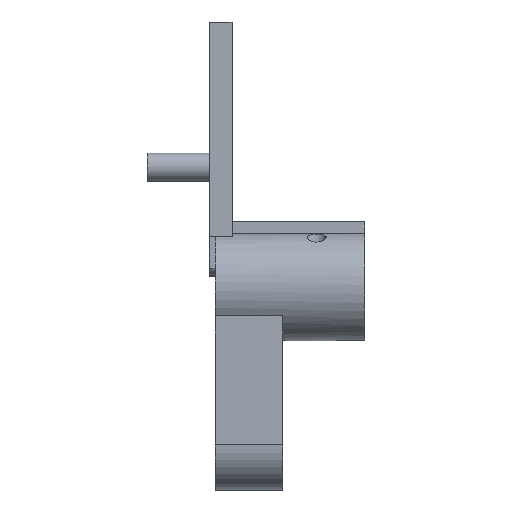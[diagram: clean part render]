
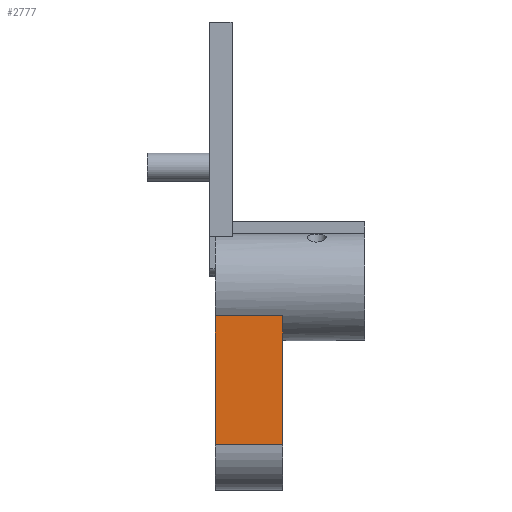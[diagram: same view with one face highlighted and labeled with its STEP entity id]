
A CAD part, top view. The second image highlights one B-rep face of the part: STEP entity #2777.
In plain terms, the highlighted planar face has unit normal (0, 0, 1).
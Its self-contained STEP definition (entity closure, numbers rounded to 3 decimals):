
#739 = PLANE('',#740);
#740 = AXIS2_PLACEMENT_3D('',#741,#742,#743);
#741 = CARTESIAN_POINT('',(35.5,-134.708,-225.));
#742 = DIRECTION('',(1.,0.,0.));
#743 = DIRECTION('',(-0.,0.,1.));
#764 = CYLINDRICAL_SURFACE('',#765,9.5);
#765 = AXIS2_PLACEMENT_3D('',#766,#767,#768);
#766 = CARTESIAN_POINT('',(35.5,-134.708,-225.));
#767 = DIRECTION('',(-1.,-0.,-0.));
#768 = DIRECTION('',(0.,-1.,0.));
#2115 = VERTEX_POINT('',#2116);
#2116 = CARTESIAN_POINT('',(35.5,-139.832,-217.));
#2212 = VERTEX_POINT('',#2213);
#2213 = CARTESIAN_POINT('',(47.5,-139.832,-217.));
#2228 = PLANE('',#2229);
#2229 = AXIS2_PLACEMENT_3D('',#2230,#2231,#2232);
#2230 = CARTESIAN_POINT('',(47.5,-162.708,-233.));
#2231 = DIRECTION('',(1.,0.,0.));
#2232 = DIRECTION('',(0.,0.,1.));
#2244 = EDGE_CURVE('',#2212,#2115,#2245,.T.);
#2245 = SURFACE_CURVE('',#2246,(#2250,#2256),.PCURVE_S1.);
#2246 = LINE('',#2247,#2248);
#2247 = CARTESIAN_POINT('',(35.5,-139.832,-217.));
#2248 = VECTOR('',#2249,1.);
#2249 = DIRECTION('',(-1.,-0.,-0.));
#2250 = PCURVE('',#764,#2251);
#2251 = DEFINITIONAL_REPRESENTATION('',(#2252),#2255);
#2252 = B_SPLINE_CURVE_WITH_KNOTS('',1,(#2253,#2254),.UNSPECIFIED.,.F.,
  .F.,(2,2),(-13.2,0.),.PIECEWISE_BEZIER_KNOTS.);
#2253 = CARTESIAN_POINT('',(-5.282,-13.2));
#2254 = CARTESIAN_POINT('',(-5.282,0.));
#2255 = ( GEOMETRIC_REPRESENTATION_CONTEXT(2) 
PARAMETRIC_REPRESENTATION_CONTEXT() REPRESENTATION_CONTEXT('2D SPACE',''
  ) );
#2256 = PCURVE('',#2257,#2262);
#2257 = PLANE('',#2258);
#2258 = AXIS2_PLACEMENT_3D('',#2259,#2260,#2261);
#2259 = CARTESIAN_POINT('',(35.5,-162.708,-217.));
#2260 = DIRECTION('',(0.,0.,1.));
#2261 = DIRECTION('',(1.,0.,0.));
#2262 = DEFINITIONAL_REPRESENTATION('',(#2263),#2266);
#2263 = B_SPLINE_CURVE_WITH_KNOTS('',1,(#2264,#2265),.UNSPECIFIED.,.F.,
  .F.,(2,2),(-13.2,0.),.PIECEWISE_BEZIER_KNOTS.);
#2264 = CARTESIAN_POINT('',(13.2,22.877));
#2265 = CARTESIAN_POINT('',(0.,22.877));
#2266 = ( GEOMETRIC_REPRESENTATION_CONTEXT(2) 
PARAMETRIC_REPRESENTATION_CONTEXT() REPRESENTATION_CONTEXT('2D SPACE',''
  ) );
#2464 = EDGE_CURVE('',#2465,#2115,#2467,.T.);
#2465 = VERTEX_POINT('',#2466);
#2466 = CARTESIAN_POINT('',(35.5,-162.708,-217.));
#2467 = SURFACE_CURVE('',#2468,(#2472,#2479),.PCURVE_S1.);
#2468 = LINE('',#2469,#2470);
#2469 = CARTESIAN_POINT('',(35.5,-162.708,-217.));
#2470 = VECTOR('',#2471,1.);
#2471 = DIRECTION('',(0.,1.,0.));
#2472 = PCURVE('',#739,#2473);
#2473 = DEFINITIONAL_REPRESENTATION('',(#2474),#2478);
#2474 = LINE('',#2475,#2476);
#2475 = CARTESIAN_POINT('',(8.,28.));
#2476 = VECTOR('',#2477,1.);
#2477 = DIRECTION('',(0.,-1.));
#2478 = ( GEOMETRIC_REPRESENTATION_CONTEXT(2) 
PARAMETRIC_REPRESENTATION_CONTEXT() REPRESENTATION_CONTEXT('2D SPACE',''
  ) );
#2479 = PCURVE('',#2257,#2480);
#2480 = DEFINITIONAL_REPRESENTATION('',(#2481),#2485);
#2481 = LINE('',#2482,#2483);
#2482 = CARTESIAN_POINT('',(0.,0.));
#2483 = VECTOR('',#2484,1.);
#2484 = DIRECTION('',(0.,1.));
#2485 = ( GEOMETRIC_REPRESENTATION_CONTEXT(2) 
PARAMETRIC_REPRESENTATION_CONTEXT() REPRESENTATION_CONTEXT('2D SPACE',''
  ) );
#2508 = CYLINDRICAL_SURFACE('',#2509,8.);
#2509 = AXIS2_PLACEMENT_3D('',#2510,#2511,#2512);
#2510 = CARTESIAN_POINT('',(35.5,-162.708,-225.));
#2511 = DIRECTION('',(-1.,-0.,-0.));
#2512 = DIRECTION('',(0.,-1.,0.));
#2777 = ADVANCED_FACE('',(#2778),#2257,.T.);
#2778 = FACE_BOUND('',#2779,.T.);
#2779 = EDGE_LOOP('',(#2780,#2781,#2803,#2824));
#2780 = ORIENTED_EDGE('',*,*,#2464,.F.);
#2781 = ORIENTED_EDGE('',*,*,#2782,.T.);
#2782 = EDGE_CURVE('',#2465,#2783,#2785,.T.);
#2783 = VERTEX_POINT('',#2784);
#2784 = CARTESIAN_POINT('',(47.5,-162.708,-217.));
#2785 = SURFACE_CURVE('',#2786,(#2790,#2797),.PCURVE_S1.);
#2786 = LINE('',#2787,#2788);
#2787 = CARTESIAN_POINT('',(35.5,-162.708,-217.));
#2788 = VECTOR('',#2789,1.);
#2789 = DIRECTION('',(1.,0.,0.));
#2790 = PCURVE('',#2257,#2791);
#2791 = DEFINITIONAL_REPRESENTATION('',(#2792),#2796);
#2792 = LINE('',#2793,#2794);
#2793 = CARTESIAN_POINT('',(0.,0.));
#2794 = VECTOR('',#2795,1.);
#2795 = DIRECTION('',(1.,0.));
#2796 = ( GEOMETRIC_REPRESENTATION_CONTEXT(2) 
PARAMETRIC_REPRESENTATION_CONTEXT() REPRESENTATION_CONTEXT('2D SPACE',''
  ) );
#2797 = PCURVE('',#2508,#2798);
#2798 = DEFINITIONAL_REPRESENTATION('',(#2799),#2802);
#2799 = B_SPLINE_CURVE_WITH_KNOTS('',1,(#2800,#2801),.UNSPECIFIED.,.F.,
  .F.,(2,2),(0.,12.),.PIECEWISE_BEZIER_KNOTS.);
#2800 = CARTESIAN_POINT('',(-4.712,0.));
#2801 = CARTESIAN_POINT('',(-4.712,-12.));
#2802 = ( GEOMETRIC_REPRESENTATION_CONTEXT(2) 
PARAMETRIC_REPRESENTATION_CONTEXT() REPRESENTATION_CONTEXT('2D SPACE',''
  ) );
#2803 = ORIENTED_EDGE('',*,*,#2804,.T.);
#2804 = EDGE_CURVE('',#2783,#2212,#2805,.T.);
#2805 = SURFACE_CURVE('',#2806,(#2810,#2817),.PCURVE_S1.);
#2806 = LINE('',#2807,#2808);
#2807 = CARTESIAN_POINT('',(47.5,-162.708,-217.));
#2808 = VECTOR('',#2809,1.);
#2809 = DIRECTION('',(0.,1.,0.));
#2810 = PCURVE('',#2257,#2811);
#2811 = DEFINITIONAL_REPRESENTATION('',(#2812),#2816);
#2812 = LINE('',#2813,#2814);
#2813 = CARTESIAN_POINT('',(12.,0.));
#2814 = VECTOR('',#2815,1.);
#2815 = DIRECTION('',(0.,1.));
#2816 = ( GEOMETRIC_REPRESENTATION_CONTEXT(2) 
PARAMETRIC_REPRESENTATION_CONTEXT() REPRESENTATION_CONTEXT('2D SPACE',''
  ) );
#2817 = PCURVE('',#2228,#2818);
#2818 = DEFINITIONAL_REPRESENTATION('',(#2819),#2823);
#2819 = LINE('',#2820,#2821);
#2820 = CARTESIAN_POINT('',(16.,0.));
#2821 = VECTOR('',#2822,1.);
#2822 = DIRECTION('',(0.,-1.));
#2823 = ( GEOMETRIC_REPRESENTATION_CONTEXT(2) 
PARAMETRIC_REPRESENTATION_CONTEXT() REPRESENTATION_CONTEXT('2D SPACE',''
  ) );
#2824 = ORIENTED_EDGE('',*,*,#2244,.T.);
